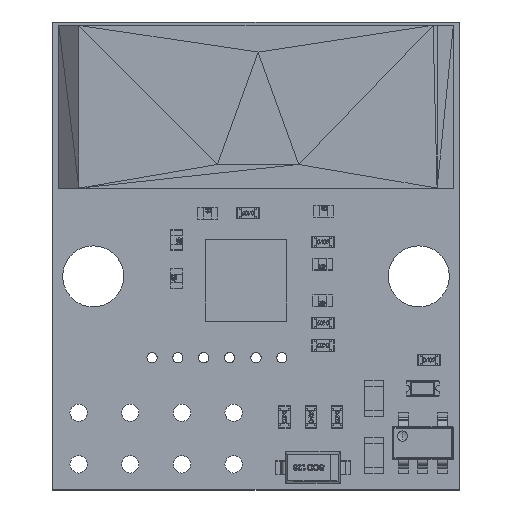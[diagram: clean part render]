
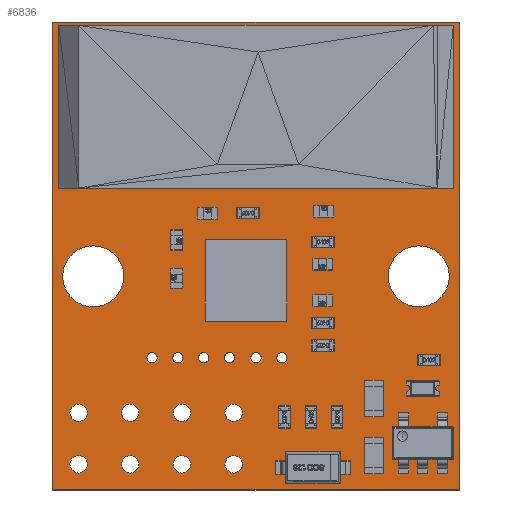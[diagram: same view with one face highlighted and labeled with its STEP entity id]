
A CAD part, top view. The second image highlights one B-rep face of the part: STEP entity #6836.
In plain terms, the highlighted planar face has unit normal (0, 0, 1).
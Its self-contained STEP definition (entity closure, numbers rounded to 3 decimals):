
#5951 = VERTEX_POINT('',#5952);
#5952 = CARTESIAN_POINT('',(-10.,-11.5,0.));
#5958 = EDGE_CURVE('',#5951,#5959,#5961,.T.);
#5959 = VERTEX_POINT('',#5960);
#5960 = CARTESIAN_POINT('',(-10.,11.5,0.));
#5961 = LINE('',#5962,#5963);
#5962 = CARTESIAN_POINT('',(-10.,-11.5,0.));
#5963 = VECTOR('',#5964,1.);
#5964 = DIRECTION('',(0.,1.,0.));
#5989 = EDGE_CURVE('',#5959,#5990,#5992,.T.);
#5990 = VERTEX_POINT('',#5991);
#5991 = CARTESIAN_POINT('',(10.,11.5,0.));
#5992 = LINE('',#5993,#5994);
#5993 = CARTESIAN_POINT('',(-10.,11.5,0.));
#5994 = VECTOR('',#5995,1.);
#5995 = DIRECTION('',(1.,0.,0.));
#6020 = EDGE_CURVE('',#5990,#6021,#6023,.T.);
#6021 = VERTEX_POINT('',#6022);
#6022 = CARTESIAN_POINT('',(10.,-11.5,0.));
#6023 = LINE('',#6024,#6025);
#6024 = CARTESIAN_POINT('',(10.,11.5,0.));
#6025 = VECTOR('',#6026,1.);
#6026 = DIRECTION('',(0.,-1.,0.));
#6051 = EDGE_CURVE('',#6021,#5951,#6052,.T.);
#6052 = LINE('',#6053,#6054);
#6053 = CARTESIAN_POINT('',(10.,-11.5,0.));
#6054 = VECTOR('',#6055,1.);
#6055 = DIRECTION('',(-1.,0.,0.));
#6075 = VERTEX_POINT('',#6076);
#6076 = CARTESIAN_POINT('',(-8.295,-10.24,0.));
#6082 = EDGE_CURVE('',#6075,#6075,#6083,.T.);
#6083 = CIRCLE('',#6084,0.425);
#6084 = AXIS2_PLACEMENT_3D('',#6085,#6086,#6087);
#6085 = CARTESIAN_POINT('',(-8.72,-10.24,0.));
#6086 = DIRECTION('',(0.,0.,1.));
#6087 = DIRECTION('',(1.,0.,0.));
#6108 = VERTEX_POINT('',#6109);
#6109 = CARTESIAN_POINT('',(-8.295,-7.7,0.));
#6115 = EDGE_CURVE('',#6108,#6108,#6116,.T.);
#6116 = CIRCLE('',#6117,0.425);
#6117 = AXIS2_PLACEMENT_3D('',#6118,#6119,#6120);
#6118 = CARTESIAN_POINT('',(-8.72,-7.7,0.));
#6119 = DIRECTION('',(0.,0.,1.));
#6120 = DIRECTION('',(1.,0.,0.));
#6141 = VERTEX_POINT('',#6142);
#6142 = CARTESIAN_POINT('',(-5.755,-10.24,0.));
#6148 = EDGE_CURVE('',#6141,#6141,#6149,.T.);
#6149 = CIRCLE('',#6150,0.425);
#6150 = AXIS2_PLACEMENT_3D('',#6151,#6152,#6153);
#6151 = CARTESIAN_POINT('',(-6.18,-10.24,0.));
#6152 = DIRECTION('',(0.,0.,1.));
#6153 = DIRECTION('',(1.,0.,0.));
#6174 = VERTEX_POINT('',#6175);
#6175 = CARTESIAN_POINT('',(-3.215,-7.7,0.));
#6181 = EDGE_CURVE('',#6174,#6174,#6182,.T.);
#6182 = CIRCLE('',#6183,0.425);
#6183 = AXIS2_PLACEMENT_3D('',#6184,#6185,#6186);
#6184 = CARTESIAN_POINT('',(-3.64,-7.7,0.));
#6185 = DIRECTION('',(0.,0.,1.));
#6186 = DIRECTION('',(1.,0.,0.));
#6207 = VERTEX_POINT('',#6208);
#6208 = CARTESIAN_POINT('',(-3.215,-10.24,0.));
#6214 = EDGE_CURVE('',#6207,#6207,#6215,.T.);
#6215 = CIRCLE('',#6216,0.425);
#6216 = AXIS2_PLACEMENT_3D('',#6217,#6218,#6219);
#6217 = CARTESIAN_POINT('',(-3.64,-10.24,0.));
#6218 = DIRECTION('',(0.,0.,1.));
#6219 = DIRECTION('',(1.,0.,0.));
#6240 = VERTEX_POINT('',#6241);
#6241 = CARTESIAN_POINT('',(-5.755,-7.7,0.));
#6247 = EDGE_CURVE('',#6240,#6240,#6248,.T.);
#6248 = CIRCLE('',#6249,0.425);
#6249 = AXIS2_PLACEMENT_3D('',#6250,#6251,#6252);
#6250 = CARTESIAN_POINT('',(-6.18,-7.7,0.));
#6251 = DIRECTION('',(0.,0.,1.));
#6252 = DIRECTION('',(1.,0.,0.));
#6273 = VERTEX_POINT('',#6274);
#6274 = CARTESIAN_POINT('',(-6.5,-1.,0.));
#6280 = EDGE_CURVE('',#6273,#6273,#6281,.T.);
#6281 = CIRCLE('',#6282,1.5);
#6282 = AXIS2_PLACEMENT_3D('',#6283,#6284,#6285);
#6283 = CARTESIAN_POINT('',(-8.,-1.,0.));
#6284 = DIRECTION('',(0.,0.,1.));
#6285 = DIRECTION('',(1.,0.,0.));
#6306 = VERTEX_POINT('',#6307);
#6307 = CARTESIAN_POINT('',(-3.59,-5.,0.));
#6313 = EDGE_CURVE('',#6306,#6306,#6314,.T.);
#6314 = CIRCLE('',#6315,0.25);
#6315 = AXIS2_PLACEMENT_3D('',#6316,#6317,#6318);
#6316 = CARTESIAN_POINT('',(-3.84,-5.,0.));
#6317 = DIRECTION('',(0.,0.,1.));
#6318 = DIRECTION('',(1.,0.,0.));
#6339 = VERTEX_POINT('',#6340);
#6340 = CARTESIAN_POINT('',(-5.4,7.3,0.));
#6346 = EDGE_CURVE('',#6339,#6339,#6347,.T.);
#6347 = CIRCLE('',#6348,1.1);
#6348 = AXIS2_PLACEMENT_3D('',#6349,#6350,#6351);
#6349 = CARTESIAN_POINT('',(-6.5,7.3,0.));
#6350 = DIRECTION('',(0.,0.,1.));
#6351 = DIRECTION('',(1.,0.,0.));
#6372 = VERTEX_POINT('',#6373);
#6373 = CARTESIAN_POINT('',(-4.86,-5.,0.));
#6379 = EDGE_CURVE('',#6372,#6372,#6380,.T.);
#6380 = CIRCLE('',#6381,0.25);
#6381 = AXIS2_PLACEMENT_3D('',#6382,#6383,#6384);
#6382 = CARTESIAN_POINT('',(-5.11,-5.,0.));
#6383 = DIRECTION('',(0.,0.,1.));
#6384 = DIRECTION('',(1.,0.,0.));
#6405 = VERTEX_POINT('',#6406);
#6406 = CARTESIAN_POINT('',(-0.675,-10.24,0.));
#6412 = EDGE_CURVE('',#6405,#6405,#6413,.T.);
#6413 = CIRCLE('',#6414,0.425);
#6414 = AXIS2_PLACEMENT_3D('',#6415,#6416,#6417);
#6415 = CARTESIAN_POINT('',(-1.1,-10.24,0.));
#6416 = DIRECTION('',(0.,0.,1.));
#6417 = DIRECTION('',(1.,0.,0.));
#6438 = VERTEX_POINT('',#6439);
#6439 = CARTESIAN_POINT('',(-2.32,-5.,0.));
#6445 = EDGE_CURVE('',#6438,#6438,#6446,.T.);
#6446 = CIRCLE('',#6447,0.25);
#6447 = AXIS2_PLACEMENT_3D('',#6448,#6449,#6450);
#6448 = CARTESIAN_POINT('',(-2.57,-5.,0.));
#6449 = DIRECTION('',(0.,0.,1.));
#6450 = DIRECTION('',(1.,0.,0.));
#6471 = VERTEX_POINT('',#6472);
#6472 = CARTESIAN_POINT('',(-0.675,-7.7,0.));
#6478 = EDGE_CURVE('',#6471,#6471,#6479,.T.);
#6479 = CIRCLE('',#6480,0.425);
#6480 = AXIS2_PLACEMENT_3D('',#6481,#6482,#6483);
#6481 = CARTESIAN_POINT('',(-1.1,-7.7,0.));
#6482 = DIRECTION('',(0.,0.,1.));
#6483 = DIRECTION('',(1.,0.,0.));
#6504 = VERTEX_POINT('',#6505);
#6505 = CARTESIAN_POINT('',(0.25,-5.,0.));
#6511 = EDGE_CURVE('',#6504,#6504,#6512,.T.);
#6512 = CIRCLE('',#6513,0.25);
#6513 = AXIS2_PLACEMENT_3D('',#6514,#6515,#6516);
#6514 = CARTESIAN_POINT('',(0.,-5.,0.));
#6515 = DIRECTION('',(0.,0.,1.));
#6516 = DIRECTION('',(1.,0.,0.));
#6537 = VERTEX_POINT('',#6538);
#6538 = CARTESIAN_POINT('',(1.52,-5.,0.));
#6544 = EDGE_CURVE('',#6537,#6537,#6545,.T.);
#6545 = CIRCLE('',#6546,0.25);
#6546 = AXIS2_PLACEMENT_3D('',#6547,#6548,#6549);
#6547 = CARTESIAN_POINT('',(1.27,-5.,0.));
#6548 = DIRECTION('',(0.,0.,1.));
#6549 = DIRECTION('',(1.,0.,0.));
#6570 = VERTEX_POINT('',#6571);
#6571 = CARTESIAN_POINT('',(-1.05,-5.,0.));
#6577 = EDGE_CURVE('',#6570,#6570,#6578,.T.);
#6578 = CIRCLE('',#6579,0.25);
#6579 = AXIS2_PLACEMENT_3D('',#6580,#6581,#6582);
#6580 = CARTESIAN_POINT('',(-1.3,-5.,0.));
#6581 = DIRECTION('',(0.,0.,1.));
#6582 = DIRECTION('',(1.,0.,0.));
#6603 = VERTEX_POINT('',#6604);
#6604 = CARTESIAN_POINT('',(0.325,9.27,0.));
#6610 = EDGE_CURVE('',#6603,#6603,#6611,.T.);
#6611 = CIRCLE('',#6612,0.325);
#6612 = AXIS2_PLACEMENT_3D('',#6613,#6614,#6615);
#6613 = CARTESIAN_POINT('',(0.,9.27,0.));
#6614 = DIRECTION('',(0.,0.,1.));
#6615 = DIRECTION('',(1.,0.,0.));
#6636 = VERTEX_POINT('',#6637);
#6637 = CARTESIAN_POINT('',(0.325,6.73,0.));
#6643 = EDGE_CURVE('',#6636,#6636,#6644,.T.);
#6644 = CIRCLE('',#6645,0.325);
#6645 = AXIS2_PLACEMENT_3D('',#6646,#6647,#6648);
#6646 = CARTESIAN_POINT('',(0.,6.73,0.));
#6647 = DIRECTION('',(0.,0.,1.));
#6648 = DIRECTION('',(1.,0.,0.));
#6669 = VERTEX_POINT('',#6670);
#6670 = CARTESIAN_POINT('',(9.5,-1.,0.));
#6676 = EDGE_CURVE('',#6669,#6669,#6677,.T.);
#6677 = CIRCLE('',#6678,1.5);
#6678 = AXIS2_PLACEMENT_3D('',#6679,#6680,#6681);
#6679 = CARTESIAN_POINT('',(8.,-1.,0.));
#6680 = DIRECTION('',(0.,0.,1.));
#6681 = DIRECTION('',(1.,0.,0.));
#6702 = VERTEX_POINT('',#6703);
#6703 = CARTESIAN_POINT('',(0.325,8.,0.));
#6709 = EDGE_CURVE('',#6702,#6702,#6710,.T.);
#6710 = CIRCLE('',#6711,0.325);
#6711 = AXIS2_PLACEMENT_3D('',#6712,#6713,#6714);
#6712 = CARTESIAN_POINT('',(0.,8.,0.));
#6713 = DIRECTION('',(0.,0.,1.));
#6714 = DIRECTION('',(1.,0.,0.));
#6735 = VERTEX_POINT('',#6736);
#6736 = CARTESIAN_POINT('',(7.6,7.3,0.));
#6742 = EDGE_CURVE('',#6735,#6735,#6743,.T.);
#6743 = CIRCLE('',#6744,1.1);
#6744 = AXIS2_PLACEMENT_3D('',#6745,#6746,#6747);
#6745 = CARTESIAN_POINT('',(6.5,7.3,0.));
#6746 = DIRECTION('',(0.,0.,1.));
#6747 = DIRECTION('',(1.,0.,0.));
#6836 = ADVANCED_FACE('',(#6837,#6843,#6846,#6849,#6852,#6855,#6858,
    #6861,#6864,#6867,#6870,#6873,#6876,#6879,#6882,#6885,#6888,#6891,
    #6894,#6897,#6900,#6903),#6906,.T.);
#6837 = FACE_BOUND('',#6838,.F.);
#6838 = EDGE_LOOP('',(#6839,#6840,#6841,#6842));
#6839 = ORIENTED_EDGE('',*,*,#5958,.T.);
#6840 = ORIENTED_EDGE('',*,*,#5989,.T.);
#6841 = ORIENTED_EDGE('',*,*,#6020,.T.);
#6842 = ORIENTED_EDGE('',*,*,#6051,.T.);
#6843 = FACE_BOUND('',#6844,.T.);
#6844 = EDGE_LOOP('',(#6845));
#6845 = ORIENTED_EDGE('',*,*,#6082,.F.);
#6846 = FACE_BOUND('',#6847,.T.);
#6847 = EDGE_LOOP('',(#6848));
#6848 = ORIENTED_EDGE('',*,*,#6115,.F.);
#6849 = FACE_BOUND('',#6850,.T.);
#6850 = EDGE_LOOP('',(#6851));
#6851 = ORIENTED_EDGE('',*,*,#6148,.F.);
#6852 = FACE_BOUND('',#6853,.T.);
#6853 = EDGE_LOOP('',(#6854));
#6854 = ORIENTED_EDGE('',*,*,#6181,.F.);
#6855 = FACE_BOUND('',#6856,.T.);
#6856 = EDGE_LOOP('',(#6857));
#6857 = ORIENTED_EDGE('',*,*,#6214,.F.);
#6858 = FACE_BOUND('',#6859,.T.);
#6859 = EDGE_LOOP('',(#6860));
#6860 = ORIENTED_EDGE('',*,*,#6247,.F.);
#6861 = FACE_BOUND('',#6862,.T.);
#6862 = EDGE_LOOP('',(#6863));
#6863 = ORIENTED_EDGE('',*,*,#6280,.F.);
#6864 = FACE_BOUND('',#6865,.T.);
#6865 = EDGE_LOOP('',(#6866));
#6866 = ORIENTED_EDGE('',*,*,#6313,.F.);
#6867 = FACE_BOUND('',#6868,.T.);
#6868 = EDGE_LOOP('',(#6869));
#6869 = ORIENTED_EDGE('',*,*,#6346,.F.);
#6870 = FACE_BOUND('',#6871,.T.);
#6871 = EDGE_LOOP('',(#6872));
#6872 = ORIENTED_EDGE('',*,*,#6379,.F.);
#6873 = FACE_BOUND('',#6874,.T.);
#6874 = EDGE_LOOP('',(#6875));
#6875 = ORIENTED_EDGE('',*,*,#6412,.F.);
#6876 = FACE_BOUND('',#6877,.T.);
#6877 = EDGE_LOOP('',(#6878));
#6878 = ORIENTED_EDGE('',*,*,#6445,.F.);
#6879 = FACE_BOUND('',#6880,.T.);
#6880 = EDGE_LOOP('',(#6881));
#6881 = ORIENTED_EDGE('',*,*,#6478,.F.);
#6882 = FACE_BOUND('',#6883,.T.);
#6883 = EDGE_LOOP('',(#6884));
#6884 = ORIENTED_EDGE('',*,*,#6511,.F.);
#6885 = FACE_BOUND('',#6886,.T.);
#6886 = EDGE_LOOP('',(#6887));
#6887 = ORIENTED_EDGE('',*,*,#6544,.F.);
#6888 = FACE_BOUND('',#6889,.T.);
#6889 = EDGE_LOOP('',(#6890));
#6890 = ORIENTED_EDGE('',*,*,#6577,.F.);
#6891 = FACE_BOUND('',#6892,.T.);
#6892 = EDGE_LOOP('',(#6893));
#6893 = ORIENTED_EDGE('',*,*,#6610,.F.);
#6894 = FACE_BOUND('',#6895,.T.);
#6895 = EDGE_LOOP('',(#6896));
#6896 = ORIENTED_EDGE('',*,*,#6643,.F.);
#6897 = FACE_BOUND('',#6898,.T.);
#6898 = EDGE_LOOP('',(#6899));
#6899 = ORIENTED_EDGE('',*,*,#6676,.F.);
#6900 = FACE_BOUND('',#6901,.T.);
#6901 = EDGE_LOOP('',(#6902));
#6902 = ORIENTED_EDGE('',*,*,#6709,.F.);
#6903 = FACE_BOUND('',#6904,.T.);
#6904 = EDGE_LOOP('',(#6905));
#6905 = ORIENTED_EDGE('',*,*,#6742,.F.);
#6906 = PLANE('',#6907);
#6907 = AXIS2_PLACEMENT_3D('',#6908,#6909,#6910);
#6908 = CARTESIAN_POINT('',(-10.,-11.5,0.));
#6909 = DIRECTION('',(0.,0.,1.));
#6910 = DIRECTION('',(1.,0.,0.));
